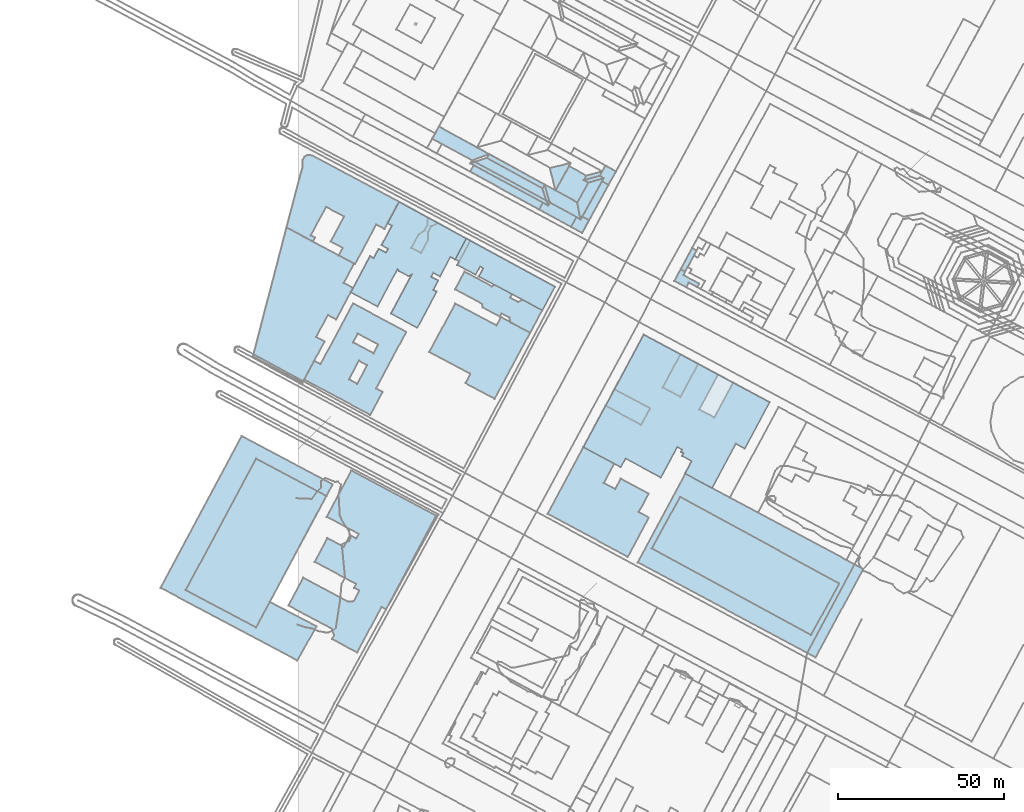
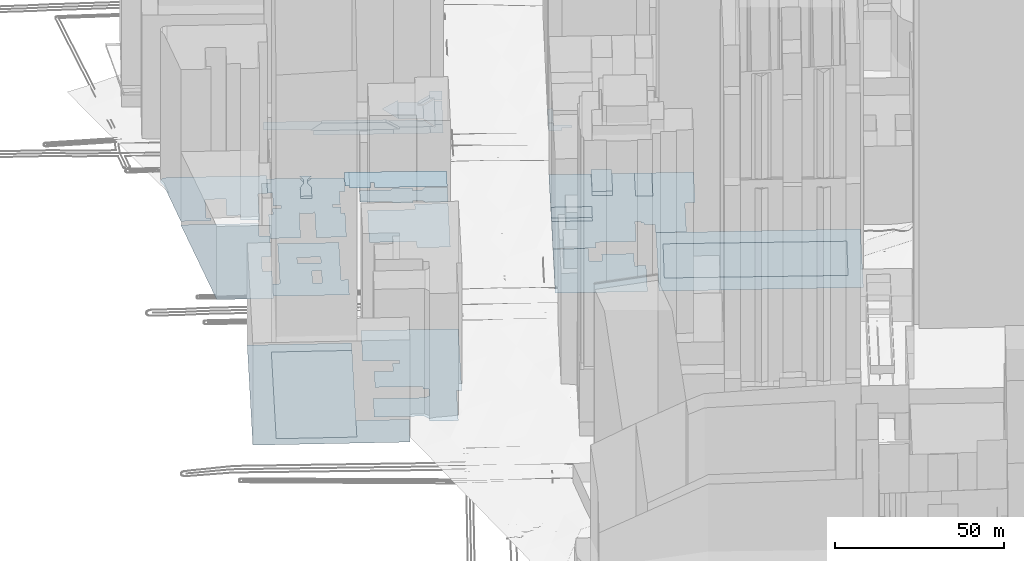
# Not in any storey, part 6 of 80: 37 footings.
"""IFC4 building model written with IfcOpenShell, lengths in metres."""

from ifc_helpers import new_model, si_unit, frame, origin_with_axes, place, context, subcontext, project, spatial, polygons, element, save


model = new_model("IFC4")

# Units and contexts
model_context = context("Model", 3, precision=1e-05, world=origin_with_axes())
body_context = subcontext(model_context, "Body", "Model", "MODEL_VIEW")
ifc_project = project(units=[si_unit("AREAUNIT", "SQUARE_METRE"), si_unit("LENGTHUNIT", "METRE")], contexts=[model_context])

# Sites, building
site_1_placement = place(None, origin_with_axes())
site_1 = spatial("IfcSite", under=ifc_project, at=site_1_placement, Name="Topoexport Site")
site_2_placement = place(site_1_placement, origin_with_axes())
site_2 = spatial("IfcSite", under=site_1, at=site_2_placement, Name="TPX_BATIMENTS")
building_1_placement = place(site_2_placement, frame((102.2298570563, 205.6345629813, 20.5938253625), z_axis=(0.0, 0.0, 1.0), x_axis=(1.0, 0.0, 0.0)))
building_1 = spatial("IfcBuilding", under=site_2, at=building_1_placement, Name="Batiment 69", CompositionType="ELEMENT")

# Footing
footing_1_placement = place(None, frame((102.2298570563, 205.6345629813, 20.5938253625), z_axis=(0.0, 0.0, 1.0), x_axis=(1.0, 0.0, 0.0)))
element("IfcFooting", 1, at=footing_1_placement, inside=building_1, Name="Sol 0", context=body_context, shape_type="Tessellation", body=[
    polygons([(0.0, 0.0, 0.0), (53.4972467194, -28.6328905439, 0.0), (67.8508291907, -2.0204918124, 0.0), (14.353712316, 26.6122941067, 0.0)], [[[2, 1, 4]], [[4, 3, 2]]]),
])

# Building
building_2_placement = place(site_2_placement, frame((106.4781571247, 209.8028425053, 21.3379729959), z_axis=(0.0, 0.0, 1.0), x_axis=(1.0, 0.0, 0.0)))
building_2 = spatial("IfcBuilding", under=site_2, at=building_2_placement, Name="Batiment 70", CompositionType="ELEMENT")

# Footing
footing_2_placement = place(None, frame((106.4781571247, 209.8028425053, 21.3379729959), z_axis=(0.0, 0.0, 1.0), x_axis=(1.0, 0.0, 0.0)))
element("IfcFooting", 2, at=footing_2_placement, inside=building_2, Name="Sol 0", context=body_context, shape_type="Tessellation", body=[
    polygons([(0.0, 0.0, 0.0), (47.8622501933, -26.0671157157, 0.0), (56.3684390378, -10.5694282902, 0.0), (8.5063843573, 15.4865312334, 0.0)], [[[2, 1, 4]], [[4, 3, 2]]]),
])

# Building
building_3_placement = place(site_2_placement, frame((85.8984085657, 240.2837612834, 20.6241127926), z_axis=(0.0, 0.0, 1.0), x_axis=(1.0, 0.0, 0.0)))
building_3 = spatial("IfcBuilding", under=site_2, at=building_3_placement, Name="Batiment 76", CompositionType="ELEMENT")

# Footing
footing_3_placement = place(None, frame((85.8984085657, 240.2837612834, 20.6241127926), z_axis=(0.0, 0.0, 1.0), x_axis=(1.0, 0.0, 0.0)))
element("IfcFooting", 3, at=footing_3_placement, inside=building_3, Name="Sol 0", context=body_context, shape_type="Tessellation", body=[
    polygons([(0.0, 0.0, 0.0), (11.2465195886, -6.0311397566, 0.0), (12.6512037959, -3.4168984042, 0.0), (23.2861681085, -9.1220554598, 0.0), (28.2024169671, 0.0388994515, 0.0), (29.7229034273, -0.776106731, 0.0), (29.3592670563, -1.4464661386, 0.0), (30.1152258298, -1.848467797, 0.0), (29.6773030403, -2.6640194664, 0.0), (32.5654494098, -4.2180905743, 0.0), (30.5658357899, -7.9383700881, 0.0), (38.6867515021, -12.3182352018, 0.0), (45.8336301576, 1.0208901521, 0.0), (48.5348020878, -0.4243246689, 0.0), (55.9958034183, 13.4846763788, 0.0), (18.1278687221, 33.8059517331, 0.0)], [[[2, 1, 16]], [[5, 4, 3]], [[8, 7, 6]], [[10, 9, 8]], [[12, 11, 10]], [[15, 14, 13]], [[3, 2, 16]], [[10, 8, 6]], [[13, 12, 10]], [[16, 15, 13]], [[5, 3, 16]], [[13, 10, 6]], [[5, 16, 13]], [[13, 6, 5]]]),
])

# Building
building_4_placement = place(site_2_placement, frame((85.8984085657, 240.2837612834, 20.6241127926), z_axis=(0.0, 0.0, 1.0), x_axis=(1.0, 0.0, 0.0)))
building_4 = spatial("IfcBuilding", under=site_2, at=building_4_placement, Name="Batiment 77", CompositionType="ELEMENT")

# Footing
footing_4_placement = place(None, frame((85.8984085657, 240.2837612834, 20.6241127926), z_axis=(0.0, 0.0, 1.0), x_axis=(1.0, 0.0, 0.0)))
element("IfcFooting", 4, at=footing_4_placement, inside=building_4, Name="Sol 0", context=body_context, shape_type="Tessellation", body=[
    polygons([(0.0, 0.0, 0.0), (11.2465195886, -6.0311397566, 0.0), (12.6512037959, -3.4168984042, 0.0), (23.2861681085, -9.1220554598, 0.0), (28.2024169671, 0.0388994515, 0.0), (29.7229034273, -0.776106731, 0.0), (29.3592670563, -1.4464661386, 0.0), (30.1152258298, -1.848467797, 0.0), (29.6773030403, -2.6640194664, 0.0), (32.5654494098, -4.2180905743, 0.0), (30.5658357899, -7.9383700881, 0.0), (38.6867515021, -12.3182352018, 0.0), (45.8336301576, 1.0208901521, 0.0), (48.5348020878, -0.4243246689, 0.0), (55.9958034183, 13.4846763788, 0.0), (45.0379209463, 19.3747728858, 0.0), (39.3945655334, 8.8619853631, 0.0), (34.8585594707, 11.2961922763, 0.0), (40.5020482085, 21.7978755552, 0.0), (34.5220457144, 25.003566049, 0.0), (29.1928346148, 15.0606509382, 0.0), (23.8498507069, 17.92958022, 0.0), (29.1875069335, 27.8725894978, 0.0), (18.1278687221, 33.8059517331, 0.0), (9.3283721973, 17.3945398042, 0.0), (20.0566635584, 11.6460536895, 0.0), (17.387953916, 6.6634513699, 0.0), (6.6595287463, 12.4230421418, 0.0)], [[[2, 1, 28]], [[5, 4, 3]], [[8, 7, 6]], [[10, 9, 8]], [[12, 11, 10]], [[15, 14, 13]], [[17, 16, 15]], [[20, 19, 18]], [[24, 23, 22]], [[26, 25, 24]], [[2, 28, 27]], [[10, 8, 6]], [[13, 12, 10]], [[17, 15, 13]], [[21, 20, 18]], [[26, 24, 22]], [[2, 27, 26]], [[13, 10, 6]], [[18, 17, 13]], [[22, 21, 18]], [[2, 26, 22]], [[13, 6, 5]], [[22, 18, 13]], [[3, 2, 22]], [[22, 13, 5]], [[5, 3, 22]]]),
])

# Building
building_5_placement = place(site_2_placement, frame((109.7482592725, 258.2133415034, 22.1609130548), z_axis=(0.0, 0.0, 1.0), x_axis=(1.0, 0.0, 0.0)))
building_5 = spatial("IfcBuilding", under=site_2, at=building_5_placement, Name="Batiment 78", CompositionType="ELEMENT")

# Footing
footing_5_placement = place(None, frame((109.7482592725, 258.2133415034, 22.1609130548), z_axis=(0.0, 0.0, 1.0), x_axis=(1.0, 0.0, 0.0)))
element("IfcFooting", 5, at=footing_5_placement, inside=building_5, Name="Sol 0", context=body_context, shape_type="Tessellation", body=[
    polygons([(0.0, 0.0, 0.0), (5.3429839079, -2.8689292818, 0.0), (10.6721950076, 7.073985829, 0.0), (5.3376562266, 9.9430092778, 0.0)], [[[2, 1, 4]], [[4, 3, 2]]]),
])

# Building
building_6_placement = place(site_2_placement, frame((113.2505831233, 290.2618220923, 23.4496714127), z_axis=(0.0, 0.0, 1.0), x_axis=(1.0, 0.0, 0.0)))
building_6 = spatial("IfcBuilding", under=site_2, at=building_6_placement, Name="Batiment 89", CompositionType="ELEMENT")

# Footing
footing_6_placement = place(None, frame((113.2505831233, 290.2618220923, 23.4496714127), z_axis=(0.0, 0.0, 1.0), x_axis=(1.0, 0.0, 0.0)))
element("IfcFooting", 6, at=footing_6_placement, inside=building_6, Name="Sol 0", context=body_context, shape_type="Tessellation", body=[
    polygons([(0.0, 0.0, 0.0), (3.5507210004, -1.912748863, 0.0), (4.3278559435, -0.5048368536, 0.0), (6.9103282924, -1.9070263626, 0.0), (7.4887654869, -0.8344899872, 0.0), (2.7316622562, 1.7414799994, 0.0), (3.2685432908, 2.7580220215, 0.0), (1.9180329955, 3.4750820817, 0.0)], [[[2, 1, 8]], [[5, 4, 3]], [[8, 7, 6]], [[6, 5, 3]], [[2, 8, 6]], [[6, 3, 2]]]),
])

# Building
building_7_placement = place(site_2_placement, frame((115.1686161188, 293.7369041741, 23.6149483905), z_axis=(0.0, 0.0, 1.0), x_axis=(1.0, 0.0, 0.0)))
building_7 = spatial("IfcBuilding", under=site_2, at=building_7_placement, Name="Batiment 91", CompositionType="ELEMENT")

# Footing
footing_7_placement = place(None, frame((115.1686161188, 293.7369041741, 23.6149483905), z_axis=(0.0, 0.0, 1.0), x_axis=(1.0, 0.0, 0.0)))
element("IfcFooting", 7, at=footing_7_placement, inside=building_7, Name="Sol 0", context=body_context, shape_type="Tessellation", body=[
    polygons([(0.0, 0.0, 0.0), (1.3505102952, -0.7170600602, 0.0), (4.7632106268, 5.6175640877, 0.0), (3.4125721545, 6.3457242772, 0.0)], [[[2, 1, 4]], [[4, 3, 2]]]),
])

# Building
building_8_placement = place(site_2_placement, frame((75.8576447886, 324.2223197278, 23.8818952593), z_axis=(0.0, 0.0, 1.0), x_axis=(1.0, 0.0, 0.0)))
building_8 = spatial("IfcBuilding", under=site_2, at=building_8_placement, Name="Batiment 148", CompositionType="ELEMENT")

# Footing
footing_8_placement = place(None, frame((75.8576447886, 324.2223197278, 23.8818952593), z_axis=(0.0, 0.0, 1.0), x_axis=(1.0, 0.0, 0.0)))
element("IfcFooting", 8, at=footing_8_placement, inside=building_8, Name="Sol 0", context=body_context, shape_type="Tessellation", body=[
    polygons([(0.0, 0.0, 0.0), (1.6742153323, -6.7862405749, 0.0), (6.2713279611, 1.5050133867, 0.0)], [[[2, 1, 3]]]),
])

# Building
building_9_placement = place(site_2_placement, frame((51.8301050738, 323.0662829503, 23.5650277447), z_axis=(0.0, 0.0, 1.0), x_axis=(1.0, 0.0, 0.0)))
building_9 = spatial("IfcBuilding", under=site_2, at=building_9_placement, Name="Batiment 151", CompositionType="ELEMENT")

# Footing
footing_9_placement = place(None, frame((51.8301050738, 323.0662829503, 23.5650277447), z_axis=(0.0, 0.0, 1.0), x_axis=(1.0, 0.0, 0.0)))
element("IfcFooting", 9, at=footing_9_placement, inside=building_9, Name="Sol 0", context=body_context, shape_type="Tessellation", body=[
    polygons([(0.0, 0.0, 0.0), (20.7629560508, -11.3941082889, 0.0), (21.9038617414, -9.3269442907, 0.0), (1.0828589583, 1.9776688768, 0.0)], [[[2, 1, 4]], [[4, 3, 2]]]),
])

# Building
building_10_placement = place(site_2_placement, frame((-13.4692579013, 267.507853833, 20.5235292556), z_axis=(0.0, 0.0, 1.0), x_axis=(1.0, 0.0, 0.0)))
building_10 = spatial("IfcBuilding", under=site_2, at=building_10_placement, Name="Batiment 154", CompositionType="ELEMENT")

# Footing
footing_10_placement = place(None, frame((-13.4692579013, 267.507853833, 20.5235292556), z_axis=(0.0, 0.0, 1.0), x_axis=(1.0, 0.0, 0.0)))
element("IfcFooting", 10, at=footing_10_placement, inside=building_10, Name="Sol 0", context=body_context, shape_type="Tessellation", body=[
    polygons([(0.0, 0.0, 0.0), (14.8729310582, -7.9321108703, 0.0), (21.5236253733, 4.535158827, 0.0), (19.0179048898, 5.871663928, 0.0), (22.5456521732, 12.4851249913, 0.0), (25.0429308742, 11.1485231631, 0.0), (30.1073251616, 20.644198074, 0.0), (27.3212769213, 22.1328790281, 0.0), (30.4109499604, 27.9418994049, 0.0), (10.0850586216, 38.7750178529, 0.0)], [[[2, 1, 10]], [[4, 3, 2]], [[7, 6, 5]], [[10, 9, 8]], [[4, 2, 10]], [[8, 7, 5]], [[4, 10, 8]], [[8, 5, 4]]]),
])

# Building
building_11_placement = place(site_2_placement, frame((-3.3841992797, 306.2828716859, 21.8195391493), z_axis=(0.0, 0.0, 1.0), x_axis=(1.0, 0.0, 0.0)))
building_11 = spatial("IfcBuilding", under=site_2, at=building_11_placement, Name="Batiment 155", CompositionType="ELEMENT")

# Footing
footing_11_placement = place(None, frame((-3.3841992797, 306.2828716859, 21.8195391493), z_axis=(0.0, 0.0, 1.0), x_axis=(1.0, 0.0, 0.0)))
element("IfcFooting", 11, at=footing_11_placement, inside=building_11, Name="Sol 0", context=body_context, shape_type="Tessellation", body=[
    polygons([(0.0, 0.0, 0.0), (7.9587232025, -4.2375453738, 0.0), (8.5865292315, -3.0534231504, 0.0), (7.3125093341, -2.3798647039, 0.0), (11.8893541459, 6.2108665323, 0.0), (17.3086069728, 3.3094443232, 0.0), (13.3099607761, -4.1865612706, 0.0), (16.8944091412, -6.0989674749, 0.0), (15.6882811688, -8.366718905, 0.0), (20.6318009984, -11.0072048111, 0.0), (26.9684045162, 0.8791195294, 0.0), (29.4571079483, -0.4464745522, 0.0), (33.8274296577, 7.7532955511, 0.0), (7.7846017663, 21.6841879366, 0.0), (6.347319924, 21.8784555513, 0.0), (5.3911895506, 21.3455570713, 0.0), (4.8705322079, 20.3847231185, 0.0), (4.8038334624, 18.1301925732, 0.0)], [[[3, 2, 1]], [[8, 7, 6]], [[10, 9, 8]], [[13, 12, 11]], [[15, 14, 13]], [[17, 16, 15]], [[4, 3, 1]], [[10, 8, 6]], [[15, 13, 11]], [[18, 17, 15]], [[4, 1, 18]], [[11, 10, 6]], [[18, 15, 11]], [[5, 4, 18]], [[11, 6, 5]], [[5, 18, 11]]]),
])

# Building
building_12_placement = place(site_2_placement, frame((47.3240526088, 296.7460494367, 22.6341458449), z_axis=(0.0, 0.0, 1.0), x_axis=(1.0, 0.0, 0.0)))
building_12 = spatial("IfcBuilding", under=site_2, at=building_12_placement, Name="Batiment 156", CompositionType="ELEMENT")

# Footing
footing_12_placement = place(None, frame((47.3240526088, 296.7460494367, 22.6341458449), z_axis=(0.0, 0.0, 1.0), x_axis=(1.0, 0.0, 0.0)))
element("IfcFooting", 12, at=footing_12_placement, inside=building_12, Name="Sol 0", context=body_context, shape_type="Tessellation", body=[
    polygons([(0.0, 0.0, 0.0), (1.2145569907, -0.6409345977, 0.0), (4.5862716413, 5.5932606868, 0.0), (3.3375678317, 6.267105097, 0.0)], [[[2, 1, 4]], [[4, 3, 2]]]),
])

# Building
building_13_placement = place(site_2_placement, frame((15.9441565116, 286.8450369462, 20.647913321), z_axis=(0.0, 0.0, 1.0), x_axis=(1.0, 0.0, 0.0)))
building_13 = spatial("IfcBuilding", under=site_2, at=building_13_placement, Name="Batiment 157", CompositionType="ELEMENT")

# Footing
footing_13_placement = place(None, frame((15.9441565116, 286.8450369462, 20.647913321), z_axis=(0.0, 0.0, 1.0), x_axis=(1.0, 0.0, 0.0)))
element("IfcFooting", 13, at=footing_13_placement, inside=building_13, Name="Sol 0", context=body_context, shape_type="Tessellation", body=[
    polygons([(0.0, 0.0, 0.0), (8.0352328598, -4.2810464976, 0.0), (14.0662474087, 7.0244198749, 0.0), (14.5213100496, 6.363565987, 0.0), (17.3582596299, 4.8532774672, 0.0), (18.4068488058, 5.4205597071, 0.0), (12.0868715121, -6.4433762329, 0.0), (20.0203200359, -10.6811822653, 0.0), (25.8033972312, 0.1662240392, 0.0), (24.7841247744, 0.7095061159, 0.0), (26.2793412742, 3.5246280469, 0.0), (24.1813290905, 4.6438087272, 0.0), (24.8257532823, 5.8503314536, 0.0), (26.8302782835, 4.7855771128, 0.0), (29.9614850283, 10.6506035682, 0.0), (31.3798960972, 9.9010124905, 0.0), (34.717463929, 16.1681175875, 0.0), (14.4990738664, 27.1911302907, 0.0), (11.0539615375, 20.7340482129, 0.0), (12.3874511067, 20.0278770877, 0.0), (9.2563637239, 14.1517573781, 0.0), (11.2354346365, 13.0978057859, 0.0), (10.5910089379, 11.8912842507, 0.0), (8.3996436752, 13.0537949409, 0.0), (6.9042937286, 10.2497774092, 0.0), (5.7830971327, 10.847390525, 0.0)], [[[2, 1, 26]], [[5, 4, 3]], [[8, 7, 6]], [[10, 9, 8]], [[12, 11, 10]], [[15, 14, 13]], [[17, 16, 15]], [[19, 18, 17]], [[22, 21, 20]], [[25, 24, 23]], [[2, 26, 25]], [[6, 5, 3]], [[10, 8, 6]], [[17, 15, 13]], [[20, 19, 17]], [[2, 25, 23]], [[12, 10, 6]], [[20, 17, 13]], [[2, 23, 22]], [[12, 6, 3]], [[20, 13, 12]], [[3, 2, 22]], [[20, 12, 3]], [[3, 22, 20]]]),
])

# Building
building_14_placement = place(site_2_placement, frame((15.9441565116, 286.8450369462, 20.647913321), z_axis=(0.0, 0.0, 1.0), x_axis=(1.0, 0.0, 0.0)))
building_14 = spatial("IfcBuilding", under=site_2, at=building_14_placement, Name="Batiment 158", CompositionType="ELEMENT")

# Footing
footing_14_placement = place(None, frame((15.9441565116, 286.8450369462, 20.647913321), z_axis=(0.0, 0.0, 1.0), x_axis=(1.0, 0.0, 0.0)))
element("IfcFooting", 14, at=footing_14_placement, inside=building_14, Name="Sol 0", context=body_context, shape_type="Tessellation", body=[
    polygons([(0.0, 0.0, 0.0), (8.0352328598, -4.2810464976, 0.0), (14.0662474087, 7.0244198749, 0.0), (14.5213100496, 6.363565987, 0.0), (17.3582596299, 4.8532774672, 0.0), (18.4068488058, 5.4205597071, 0.0), (12.0868715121, -6.4433762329, 0.0), (20.0203200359, -10.6811822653, 0.0), (25.8033972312, 0.1662240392, 0.0), (24.7841247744, 0.7095061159, 0.0), (26.2793412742, 3.5246280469, 0.0), (24.1813290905, 4.6438087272, 0.0), (24.8257532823, 5.8503314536, 0.0), (26.8302782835, 4.7855771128, 0.0), (29.9614850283, 10.6506035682, 0.0), (31.3798960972, 9.9010124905, 0.0), (34.717463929, 16.1681175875, 0.0), (26.2477906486, 20.7882623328, 0.0), (24.2412699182, 19.8434861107, 0.0), (23.2746353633, 18.0337020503, 0.0), (23.2917057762, 15.8356544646, 0.0), (21.13557285, 11.7805123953, 0.0), (18.213707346, 13.3342229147, 0.0), (20.3782815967, 17.3894620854, 0.0), (22.2214757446, 18.5876933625, 0.0), (23.1881104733, 20.3974772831, 0.0), (23.1045489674, 22.5059351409, 0.0), (14.4990738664, 27.1911302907, 0.0), (11.0539615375, 20.7340482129, 0.0), (12.3874511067, 20.0278770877, 0.0), (9.2563637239, 14.1517573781, 0.0), (11.2354346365, 13.0978057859, 0.0), (10.5910089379, 11.8912842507, 0.0), (8.3996436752, 13.0537949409, 0.0), (6.9042937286, 10.2497774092, 0.0), (5.7830971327, 10.847390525, 0.0)], [[[2, 1, 36]], [[5, 4, 3]], [[8, 7, 6]], [[10, 9, 8]], [[12, 11, 10]], [[15, 14, 13]], [[17, 16, 15]], [[19, 18, 17]], [[21, 20, 19]], [[26, 25, 24]], [[28, 27, 26]], [[30, 29, 28]], [[32, 31, 30]], [[35, 34, 33]], [[2, 36, 35]], [[6, 5, 3]], [[10, 8, 6]], [[17, 15, 13]], [[21, 19, 17]], [[28, 26, 24]], [[32, 30, 28]], [[2, 35, 33]], [[12, 10, 6]], [[21, 17, 13]], [[28, 24, 23]], [[2, 33, 32]], [[12, 6, 3]], [[21, 13, 12]], [[32, 28, 23]], [[3, 2, 32]], [[22, 21, 12]], [[32, 23, 22]], [[12, 3, 32]], [[32, 22, 12]]]),
])

# Building
building_15_placement = place(site_2_placement, frame((34.1578638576, 300.1792598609, 21.4353953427), z_axis=(0.0, 0.0, 1.0), x_axis=(1.0, 0.0, 0.0)))
building_15 = spatial("IfcBuilding", under=site_2, at=building_15_placement, Name="Batiment 159", CompositionType="ELEMENT")

# Footing
footing_15_placement = place(None, frame((34.1578638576, 300.1792598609, 21.4353953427), z_axis=(0.0, 0.0, 1.0), x_axis=(1.0, 0.0, 0.0)))
element("IfcFooting", 15, at=footing_15_placement, inside=building_15, Name="Sol 0", context=body_context, shape_type="Tessellation", body=[
    polygons([(0.0, 0.0, 0.0), (2.921865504, -1.5537105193, 0.0), (5.0779984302, 2.5014315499, 0.0), (5.0609280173, 4.6994791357, 0.0), (6.0275625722, 6.509263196, 0.0), (8.0340833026, 7.4540394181, 0.0), (4.8908416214, 9.1717122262, 0.0), (4.9744031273, 7.0632543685, 0.0), (4.0077683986, 5.2534704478, 0.0), (2.1645742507, 4.0552391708, 0.0)], [[[2, 1, 10]], [[4, 3, 2]], [[7, 6, 5]], [[2, 10, 9]], [[8, 7, 5]], [[2, 9, 8]], [[8, 5, 4]], [[4, 2, 8]]]),
])

# Building
building_16_placement = place(site_2_placement, frame((73.5998116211, 318.0232504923, 23.6934942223), z_axis=(0.0, 0.0, 1.0), x_axis=(1.0, 0.0, 0.0)))
building_16 = spatial("IfcBuilding", under=site_2, at=building_16_placement, Name="Batiment 160", CompositionType="ELEMENT")

# Footing
footing_16_placement = place(None, frame((73.5998116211, 318.0232504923, 23.6934942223), z_axis=(0.0, 0.0, 1.0), x_axis=(1.0, 0.0, 0.0)))
element("IfcFooting", 16, at=footing_16_placement, inside=building_16, Name="Sol 0", context=body_context, shape_type="Tessellation", body=[
    polygons([(0.0, 0.0, 0.0), (1.7651185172, -5.1642565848, 0.0), (2.2527799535, -4.2704138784, 0.0), (0.6783061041, 1.1958170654, 0.0)], [[[2, 1, 4]], [[4, 3, 2]]]),
])

# Building
building_17_placement = place(site_2_placement, frame((72.5930611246, 311.6721746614, 23.6541015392), z_axis=(0.0, 0.0, 1.0), x_axis=(1.0, 0.0, 0.0)))
building_17 = spatial("IfcBuilding", under=site_2, at=building_17_placement, Name="Batiment 161", CompositionType="ELEMENT")

# Footing
footing_17_placement = place(None, frame((72.5930611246, 311.6721746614, 23.6541015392), z_axis=(0.0, 0.0, 1.0), x_axis=(1.0, 0.0, 0.0)))
element("IfcFooting", 17, at=footing_17_placement, inside=building_17, Name="Sol 0", context=body_context, shape_type="Tessellation", body=[
    polygons([(0.0, 0.0, 0.0), (9.5908889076, -5.2177144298, 0.0), (11.2191958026, -2.2345041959, 0.0), (3.2595304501, 2.0806619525, 0.0), (2.7718690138, 1.186819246, 0.0), (1.1409056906, 2.0671639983, 0.0)], [[[2, 1, 6]], [[4, 3, 2]], [[2, 6, 5]], [[5, 4, 2]]]),
])

# Building
building_18_placement = place(site_2_placement, frame((82.1839500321, 306.4544602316, 23.6541015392), z_axis=(0.0, 0.0, 1.0), x_axis=(1.0, 0.0, 0.0)))
building_18 = spatial("IfcBuilding", under=site_2, at=building_18_placement, Name="Batiment 162", CompositionType="ELEMENT")

# Footing
footing_18_placement = place(None, frame((82.1839500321, 306.4544602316, 23.6541015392), z_axis=(0.0, 0.0, 1.0), x_axis=(1.0, 0.0, 0.0)))
element("IfcFooting", 18, at=footing_18_placement, inside=building_18, Name="Sol 0", context=body_context, shape_type="Tessellation", body=[
    polygons([(0.0, 0.0, 0.0), (3.3638596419, -1.8150130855, 0.0), (5.3873702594, 2.0276609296, 0.0), (3.390767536, 3.1369042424, 0.0), (2.8614214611, 2.1981677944, 0.0), (1.628306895, 2.983210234, 0.0)], [[[2, 1, 6]], [[4, 3, 2]], [[2, 6, 5]], [[5, 4, 2]]]),
])

# Building
building_19_placement = place(site_2_placement, frame((84.0905066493, 313.8262916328, 23.7335275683), z_axis=(0.0, 0.0, 1.0), x_axis=(1.0, 0.0, 0.0)))
building_19 = spatial("IfcBuilding", under=site_2, at=building_19_placement, Name="Batiment 163", CompositionType="ELEMENT")

# Footing
footing_19_placement = place(None, frame((84.0905066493, 313.8262916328, 23.7335275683), z_axis=(0.0, 0.0, 1.0), x_axis=(1.0, 0.0, 0.0)))
element("IfcFooting", 19, at=footing_19_placement, inside=building_19, Name="Sol 0", context=body_context, shape_type="Tessellation", body=[
    polygons([(0.0, 0.0, 0.0), (0.9548648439, -5.1736636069, 0.0), (7.9345415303, 7.2975078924, 0.0), (3.3073776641, 5.9559091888, 0.0)], [[[2, 1, 4]], [[4, 3, 2]]]),
])

# Building
building_20_placement = place(site_2_placement, frame((85.5747175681, 309.591364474, 23.7388524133), z_axis=(0.0, 0.0, 1.0), x_axis=(1.0, 0.0, 0.0)))
building_20 = spatial("IfcBuilding", under=site_2, at=building_20_placement, Name="Batiment 164", CompositionType="ELEMENT")

# Footing
footing_20_placement = place(None, frame((85.5747175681, 309.591364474, 23.7388524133), z_axis=(0.0, 0.0, 1.0), x_axis=(1.0, 0.0, 0.0)))
element("IfcFooting", 20, at=footing_20_placement, inside=building_20, Name="Sol 0", context=body_context, shape_type="Tessellation", body=[
    polygons([(0.0, 0.0, 0.0), (1.9966027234, -1.1092433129, 0.0), (7.8583766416, 9.4948709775, 0.0), (5.9126749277, 10.5824993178, 0.0)], [[[2, 1, 4]], [[4, 3, 2]]]),
])

# Building
building_21_placement = place(site_2_placement, frame((47.2941529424, 287.6862653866, 22.3142509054), z_axis=(0.0, 0.0, 1.0), x_axis=(1.0, 0.0, 0.0)))
building_21 = spatial("IfcBuilding", under=site_2, at=building_21_placement, Name="Batiment 165", CompositionType="ELEMENT")

# Footing
footing_21_placement = place(None, frame((47.2941529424, 287.6862653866, 22.3142509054), z_axis=(0.0, 0.0, 1.0), x_axis=(1.0, 0.0, 0.0)))
element("IfcFooting", 21, at=footing_21_placement, inside=building_21, Name="Sol 0", context=body_context, shape_type="Tessellation", body=[
    polygons([(0.0, 0.0, 0.0), (8.2307944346, -4.4008675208, 0.0), (8.2421345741, -5.3777339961, 0.0), (13.4574445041, -8.1593656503, 0.0), (13.9699153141, -7.2208270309, 0.0), (16.3907258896, -8.5138902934, 0.0), (16.6767950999, -9.8872482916, 0.0), (22.5887243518, -13.0493648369, 0.0), (26.2412137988, -6.2789916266, 0.0), (20.3292881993, -3.1168780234, 0.0), (18.9358097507, -3.7880894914, 0.0), (16.5150002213, -2.4950270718, 0.0), (17.1100684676, -1.400097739, 0.0), (11.8946328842, 1.3926320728, 0.0), (11.0899102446, 0.905893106, 0.0), (2.8591197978, 5.3067574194, 0.0)], [[[2, 1, 16]], [[4, 3, 2]], [[8, 7, 6]], [[10, 9, 8]], [[14, 13, 12]], [[2, 16, 15]], [[5, 4, 2]], [[10, 8, 6]], [[15, 14, 12]], [[5, 2, 15]], [[10, 6, 5]], [[5, 15, 12]], [[11, 10, 5]], [[5, 12, 11]]]),
])

# Building
building_22_placement = place(site_2_placement, frame((47.9849679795, 295.0772811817, 22.6386360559), z_axis=(0.0, 0.0, 1.0), x_axis=(1.0, 0.0, 0.0)))
building_22 = spatial("IfcBuilding", under=site_2, at=building_22_placement, Name="Batiment 166", CompositionType="ELEMENT")

# Footing
footing_22_placement = place(None, frame((47.9849679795, 295.0772811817, 22.6386360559), z_axis=(0.0, 0.0, 1.0), x_axis=(1.0, 0.0, 0.0)))
element("IfcFooting", 22, at=footing_22_placement, inside=building_22, Name="Sol 0", context=body_context, shape_type="Tessellation", body=[
    polygons([(0.0, 0.0, 0.0), (5.4873189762, -2.9450128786, 0.0), (6.8259021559, -0.4536717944, 0.0), (7.8112848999, -0.9862431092, 0.0), (6.4725730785, -3.4664836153, 0.0), (25.5503987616, -13.6700074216, 0.0), (29.3597658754, -6.5980497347, 0.0), (3.9253562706, 7.2620289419, 0.0)], [[[2, 1, 8]], [[6, 5, 4]], [[8, 7, 6]], [[3, 2, 8]], [[8, 6, 4]], [[4, 3, 8]]]),
])

# Building
building_23_placement = place(site_2_placement, frame((47.3240526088, 296.7460494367, 22.6341458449), z_axis=(0.0, 0.0, 1.0), x_axis=(1.0, 0.0, 0.0)))
building_23 = spatial("IfcBuilding", under=site_2, at=building_23_placement, Name="Batiment 167", CompositionType="ELEMENT")

# Footing
footing_23_placement = place(None, frame((47.3240526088, 296.7460494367, 22.6341458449), z_axis=(0.0, 0.0, 1.0), x_axis=(1.0, 0.0, 0.0)))
element("IfcFooting", 23, at=footing_23_placement, inside=building_23, Name="Sol 0", context=body_context, shape_type="Tessellation", body=[
    polygons([(0.0, 0.0, 0.0), (1.2145569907, -0.6409345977, 0.0), (0.6609153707, -1.668768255, 0.0), (6.1482343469, -4.6137811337, 0.0), (7.4868175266, -2.1224400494, 0.0), (8.4722002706, -2.6550113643, 0.0), (7.1334884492, -5.1352518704, 0.0), (26.2113141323, -15.3387756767, 0.0), (30.0206812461, -8.2668179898, 0.0), (3.3375678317, 6.267105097, 0.0)], [[[2, 1, 10]], [[4, 3, 2]], [[8, 7, 6]], [[10, 9, 8]], [[4, 2, 10]], [[10, 8, 6]], [[5, 4, 10]], [[10, 6, 5]]]),
])

# Building
building_24_placement = place(site_2_placement, frame((39.5439098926, 268.8668109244, 21.829392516), z_axis=(0.0, 0.0, 1.0), x_axis=(1.0, 0.0, 0.0)))
building_24 = spatial("IfcBuilding", under=site_2, at=building_24_placement, Name="Batiment 168", CompositionType="ELEMENT")

# Footing
footing_24_placement = place(None, frame((39.5439098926, 268.8668109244, 21.829392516), z_axis=(0.0, 0.0, 1.0), x_axis=(1.0, 0.0, 0.0)))
element("IfcFooting", 24, at=footing_24_placement, inside=building_24, Name="Sol 0", context=body_context, shape_type="Tessellation", body=[
    polygons([(0.0, 0.0, 0.0), (12.3759530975, -6.6176192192, 0.0), (10.8802187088, -9.3883399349, 0.0), (19.6376943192, -14.0717489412, 0.0), (30.3389674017, 5.7700896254, 0.0), (21.5815076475, 10.4534858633, 0.0), (20.2344833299, 7.9620457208, 0.0), (7.8585467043, 14.5796516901, 0.0)], [[[2, 1, 8]], [[4, 3, 2]], [[6, 5, 4]], [[2, 8, 7]], [[6, 4, 2]], [[2, 7, 6]]]),
])

# Building
building_25_placement = place(site_2_placement, frame((92.5579373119, 252.7068034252, 21.8391315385), z_axis=(0.0, 0.0, 1.0), x_axis=(1.0, 0.0, 0.0)))
building_25 = spatial("IfcBuilding", under=site_2, at=building_25_placement, Name="Batiment 169", CompositionType="ELEMENT")

# Footing
footing_25_placement = place(None, frame((92.5579373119, 252.7068034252, 21.8391315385), z_axis=(0.0, 0.0, 1.0), x_axis=(1.0, 0.0, 0.0)))
element("IfcFooting", 25, at=footing_25_placement, inside=building_25, Name="Sol 0", context=body_context, shape_type="Tessellation", body=[
    polygons([(0.0, 0.0, 0.0), (10.7284251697, -5.759590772, 0.0), (13.3971348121, -0.7769884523, 0.0), (2.6688434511, 4.9714976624, 0.0)], [[[2, 1, 4]], [[4, 3, 2]]]),
])

# Building
building_26_placement = place(site_2_placement, frame((75.1238683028, 220.2079028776, 20.5185789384), z_axis=(0.0, 0.0, 1.0), x_axis=(1.0, 0.0, 0.0)))
building_26 = spatial("IfcBuilding", under=site_2, at=building_26_placement, Name="Batiment 170", CompositionType="ELEMENT")

# Footing
footing_26_placement = place(None, frame((75.1238683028, 220.2079028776, 20.5185789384), z_axis=(0.0, 0.0, 1.0), x_axis=(1.0, 0.0, 0.0)))
element("IfcFooting", 26, at=footing_26_placement, inside=building_26, Name="Sol 0", context=body_context, shape_type="Tessellation", body=[
    polygons([(0.0, 0.0, 0.0), (24.1325284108, -12.9425374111, 0.0), (30.4615452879, -1.1339469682, 0.0), (27.4290071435, 0.4961679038, 0.0), (30.411754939, 6.0597342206, 0.0), (22.0193408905, 10.5585915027, 0.0), (20.3502373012, 7.4527804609, 0.0), (16.9270008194, 9.2893047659, 0.0), (20.0504016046, 15.09874989, 0.0), (10.7745402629, 20.0758584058, 0.0)], [[[2, 1, 10]], [[4, 3, 2]], [[6, 5, 4]], [[10, 9, 8]], [[6, 4, 2]], [[2, 10, 8]], [[7, 6, 2]], [[2, 8, 7]]]),
])

# Building
building_27_placement = place(site_2_placement, frame((1.9323894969, 260.5699769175, 20.5582452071), z_axis=(0.0, 0.0, 1.0), x_axis=(1.0, 0.0, 0.0)))
building_27 = spatial("IfcBuilding", under=site_2, at=building_27_placement, Name="Batiment 171", CompositionType="ELEMENT")

# Footing
footing_27_placement = place(None, frame((1.9323894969, 260.5699769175, 20.5582452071), z_axis=(0.0, 0.0, 1.0), x_axis=(1.0, 0.0, 0.0)))
element("IfcFooting", 27, at=footing_27_placement, inside=building_27, Name="Sol 0", context=body_context, shape_type="Tessellation", body=[
    polygons([(0.0, 0.0, 0.0), (19.884421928, -10.6050822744, 0.0), (23.5608715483, -3.7123317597, 0.0), (21.6242486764, -2.6800914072, 0.0), (30.7036559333, 14.3562056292, 0.0), (14.6755029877, 22.9076776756, 0.0), (4.9268330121, 4.6201840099, 0.0), (3.015664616, 5.6416221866, 0.0), (13.4801606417, 0.0675826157, 0.0), (16.4710095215, 5.6645136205, 0.0), (18.9427160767, 4.3498225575, 0.0), (15.9519972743, -1.2582102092, 0.0), (14.7016706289, 11.1951078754, 0.0), (16.1062463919, 13.820434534, 0.0), (22.2473331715, 10.5499185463, 0.0), (20.8513279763, 7.9135878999, 0.0)], [[[7, 13, 16]], [[1, 8, 7]], [[10, 9, 1]], [[1, 9, 12]], [[3, 2, 1]], [[13, 7, 6]], [[1, 7, 16]], [[3, 1, 12]], [[14, 13, 6]], [[10, 1, 16]], [[4, 3, 12]], [[14, 6, 5]], [[11, 10, 16]], [[4, 12, 11]], [[15, 14, 5]], [[4, 11, 16]], [[15, 5, 4]], [[4, 16, 15]]]),
])

# Building
building_28_placement = place(site_2_placement, frame((-2.7913984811, 192.6027250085, 19.7081583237), z_axis=(0.0, 0.0, 1.0), x_axis=(1.0, 0.0, 0.0)))
building_28 = spatial("IfcBuilding", under=site_2, at=building_28_placement, Name="Batiment 172", CompositionType="ELEMENT")

# Footing
footing_28_placement = place(None, frame((-2.7913984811, 192.6027250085, 19.7081583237), z_axis=(0.0, 0.0, 1.0), x_axis=(1.0, 0.0, 0.0)))
element("IfcFooting", 28, at=footing_28_placement, inside=building_28, Name="Sol 0", context=body_context, shape_type="Tessellation", body=[
    polygons([(0.0, 0.0, 0.0), (13.0981058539, -7.0089939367, 0.0), (13.7530284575, -8.8887774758, 0.0), (13.1169008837, -10.0840985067, 0.0), (20.6597368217, -14.1155150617, 0.0), (27.9882930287, -0.4080177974, 0.0), (29.3389411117, -1.1361950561, 0.0), (44.4009101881, 27.0273767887, 0.0), (18.926971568, 40.6428730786, 0.0), (11.4828536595, 26.7119974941, 0.0), (21.1066720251, 21.5722969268, 0.0), (20.3713252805, 20.1981878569, 0.0), (18.5196108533, 21.1870066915, 0.0), (16.6440978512, 17.6791392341, 0.0), (11.7089640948, 20.3197258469, 0.0), (7.8920809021, 13.1589018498, 0.0), (20.361463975, 6.4978988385, 0.0), (19.7335216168, 5.3248766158, 0.0), (21.330483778, 4.466328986, 0.0), (19.6699087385, 1.3495336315, 0.0), (17.9922095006, 1.1635335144, 0.0), (4.4864005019, 8.3898337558, 0.0)], [[[2, 1, 22]], [[5, 4, 3]], [[8, 7, 6]], [[10, 9, 8]], [[14, 13, 12]], [[16, 15, 14]], [[19, 18, 17]], [[2, 22, 21]], [[5, 3, 2]], [[11, 10, 8]], [[17, 16, 14]], [[2, 21, 20]], [[6, 5, 2]], [[11, 8, 6]], [[17, 14, 12]], [[6, 2, 20]], [[12, 11, 6]], [[19, 17, 12]], [[6, 20, 19]], [[19, 12, 6]]]),
])

# Building
building_29_placement = place(site_2_placement, frame((-33.682086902, 197.2515555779, 19.8467253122), z_axis=(0.0, 0.0, 1.0), x_axis=(1.0, 0.0, 0.0)))
building_29 = spatial("IfcBuilding", under=site_2, at=building_29_placement, Name="Batiment 196", CompositionType="ELEMENT")

# Footing
footing_29_placement = place(None, frame((-33.682086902, 197.2515555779, 19.8467253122), z_axis=(0.0, 0.0, 1.0), x_axis=(1.0, 0.0, 0.0)))
element("IfcFooting", 29, at=footing_29_placement, inside=building_29, Name="Sol 0", context=body_context, shape_type="Tessellation", body=[
    polygons([(0.0, 0.0, 0.0), (21.1496172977, -11.2344352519, 0.0), (42.3099874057, 28.2685864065, 0.0), (21.1603180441, 39.5140614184, 0.0)], [[[2, 1, 4]], [[4, 3, 2]]]),
])

# Building
building_30_placement = place(site_2_placement, frame((-41.2792322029, 197.9628221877, 19.7236717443), z_axis=(0.0, 0.0, 1.0), x_axis=(1.0, 0.0, 0.0)))
building_30 = spatial("IfcBuilding", under=site_2, at=building_30_placement, Name="Batiment 197", CompositionType="ELEMENT")

# Footing
footing_30_placement = place(None, frame((-41.2792322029, 197.9628221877, 19.7236717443), z_axis=(0.0, 0.0, 1.0), x_axis=(1.0, 0.0, 0.0)))
element("IfcFooting", 30, at=footing_30_placement, inside=building_30, Name="Sol 0", context=body_context, shape_type="Tessellation", body=[
    polygons([(0.0, 0.0, 0.0), (41.1697471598, -21.8824360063, 0.0), (46.9005745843, -11.6129862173, 0.0), (32.8697860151, -4.2484289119, 0.0), (51.740056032, 31.0979986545, 0.0), (24.432417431, 45.6138174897, 0.0)], [[[3, 2, 1]], [[6, 5, 4]], [[4, 3, 1]], [[1, 6, 4]]]),
])

# Building
building_31_placement = place(site_2_placement, frame((40.4372493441, 332.9926795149, 23.2973875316), z_axis=(0.0, 0.0, 1.0), x_axis=(1.0, 0.0, 0.0)))
building_31 = spatial("IfcBuilding", under=site_2, at=building_31_placement, Name="Batiment 302", CompositionType="ELEMENT")

# Footing
footing_31_placement = place(None, frame((40.4372493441, 332.9926795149, 23.2973875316), z_axis=(0.0, 0.0, 1.0), x_axis=(1.0, 0.0, 0.0)))
element("IfcFooting", 31, at=footing_31_placement, inside=building_31, Name="Sol 0", context=body_context, shape_type="Tessellation", body=[
    polygons([(0.0, 0.0, 0.0), (43.3750075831, -23.5550090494, 0.0), (44.6081221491, -24.340051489, 0.0), (43.6532573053, -19.1663878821, 0.0), (2.0171467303, 3.6649515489, 0.0)], [[[2, 1, 5]], [[4, 3, 2]], [[2, 5, 4]]]),
])

# Building
building_32_placement = place(site_2_placement, frame((90.7756990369, 321.8531409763, 24.126993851), z_axis=(0.0, 0.0, 1.0), x_axis=(1.0, 0.0, 0.0)))
building_32 = spatial("IfcBuilding", under=site_2, at=building_32_placement, Name="Batiment 323", CompositionType="ELEMENT")

# Footing
footing_32_placement = place(None, frame((90.7756990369, 321.8531409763, 24.126993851), z_axis=(0.0, 0.0, 1.0), x_axis=(1.0, 0.0, 0.0)))
element("IfcFooting", 32, at=footing_32_placement, inside=building_32, Name="Sol 0", context=body_context, shape_type="Tessellation", body=[
    polygons([(0.0, 0.0, 0.0), (1.2493491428, -0.7293414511, 0.0), (0.711693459, -1.6792771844, 0.0), (2.6573951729, -2.7669055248, 0.0), (4.9315253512, 1.3007267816, 0.0), (1.7368622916, 3.0843934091, 0.0)], [[[2, 1, 6]], [[4, 3, 2]], [[6, 5, 4]], [[4, 2, 6]]]),
])

# Building
building_33_placement = place(site_2_placement, frame((86.0131052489, 320.5432770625, 24.0792113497), z_axis=(0.0, 0.0, 1.0), x_axis=(1.0, 0.0, 0.0)))
building_33 = spatial("IfcBuilding", under=site_2, at=building_33_placement, Name="Batiment 325", CompositionType="ELEMENT")

# Footing
footing_33_placement = place(None, frame((86.0131052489, 320.5432770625, 24.0792113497), z_axis=(0.0, 0.0, 1.0), x_axis=(1.0, 0.0, 0.0)))
element("IfcFooting", 33, at=footing_33_placement, inside=building_33, Name="Sol 0", context=body_context, shape_type="Tessellation", body=[
    polygons([(0.0, 0.0, 0.0), (4.762593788, 1.3098639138, 0.0), (5.5154405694, 2.6286731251, 0.0), (0.7607723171, 1.3633097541, 0.0)], [[[2, 1, 4]], [[4, 3, 2]]]),
])

# Building
building_34_placement = place(site_2_placement, frame((86.0131052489, 320.5432770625, 24.0792113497), z_axis=(0.0, 0.0, 1.0), x_axis=(1.0, 0.0, 0.0)))
building_34 = spatial("IfcBuilding", under=site_2, at=building_34_placement, Name="Batiment 326", CompositionType="ELEMENT")

# Footing
footing_34_placement = place(None, frame((86.0131052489, 320.5432770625, 24.0792113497), z_axis=(0.0, 0.0, 1.0), x_axis=(1.0, 0.0, 0.0)))
element("IfcFooting", 34, at=footing_34_placement, inside=building_34, Name="Sol 0", context=body_context, shape_type="Tessellation", body=[
    polygons([(0.0, 0.0, 0.0), (1.3847790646, -0.7610762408, 0.0), (6.0119429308, 0.5805224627, 0.0), (4.762593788, 1.3098639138, 0.0)], [[[2, 1, 4]], [[4, 3, 2]]]),
])

# Building
building_35_placement = place(site_2_placement, frame((77.5318601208, 317.4360791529, 23.8332747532), z_axis=(0.0, 0.0, 1.0), x_axis=(1.0, 0.0, 0.0)))
building_35 = spatial("IfcBuilding", under=site_2, at=building_35_placement, Name="Batiment 327", CompositionType="ELEMENT")

# Footing
footing_35_placement = place(None, frame((77.5318601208, 317.4360791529, 23.8332747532), z_axis=(0.0, 0.0, 1.0), x_axis=(1.0, 0.0, 0.0)))
element("IfcFooting", 35, at=footing_35_placement, inside=building_35, Name="Sol 0", context=body_context, shape_type="Tessellation", body=[
    polygons([(0.0, 0.0, 0.0), (6.5586465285, -3.60978752, 0.0), (9.8660241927, 2.3461216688, 0.0), (8.4812451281, 3.1071979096, 0.0), (9.2420174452, 4.4705076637, 0.0), (4.059713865, 7.3191174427, 0.0)], [[[2, 1, 6]], [[4, 3, 2]], [[6, 5, 4]], [[4, 2, 6]]]),
])

# Building
building_36_placement = place(site_2_placement, frame((56.8465504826, 327.2323505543, 23.571723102), z_axis=(0.0, 0.0, 1.0), x_axis=(1.0, 0.0, 0.0)))
building_36 = spatial("IfcBuilding", under=site_2, at=building_36_placement, Name="Batiment 329", CompositionType="ELEMENT")

# Footing
footing_36_placement = place(None, frame((56.8465504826, 327.2323505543, 23.571723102), z_axis=(0.0, 0.0, 1.0), x_axis=(1.0, 0.0, 0.0)))
element("IfcFooting", 36, at=footing_36_placement, inside=building_36, Name="Sol 0", context=body_context, shape_type="Tessellation", body=[
    polygons([(0.0, 0.0, 0.0), (16.7532611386, -9.209100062, 0.0), (17.4315672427, -8.0132829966, 0.0), (0.6872635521, 1.151510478, 0.0)], [[[2, 1, 4]], [[4, 3, 2]]]),
])

# Building
building_37_placement = place(site_2_placement, frame((51.9190164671, 325.5875262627, 23.5550313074), z_axis=(0.0, 0.0, 1.0), x_axis=(1.0, 0.0, 0.0)))
building_37 = spatial("IfcBuilding", under=site_2, at=building_37_placement, Name="Batiment 330", CompositionType="ELEMENT")

# Footing
footing_37_placement = place(None, frame((51.9190164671, 325.5875262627, 23.5550313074), z_axis=(0.0, 0.0, 1.0), x_axis=(1.0, 0.0, 0.0)))
element("IfcFooting", 37, at=footing_37_placement, inside=building_37, Name="Sol 0", context=body_context, shape_type="Tessellation", body=[
    polygons([(0.0, 0.0, 0.0), (21.8149503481, -11.8481876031, 0.0), (23.4459136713, -12.7285323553, 0.0), (21.6807951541, -7.5642757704, 0.0), (4.9275340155, 1.6448242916, 0.0)], [[[2, 1, 5]], [[4, 3, 2]], [[2, 5, 4]]]),
])

save(model, "model.ifc")
